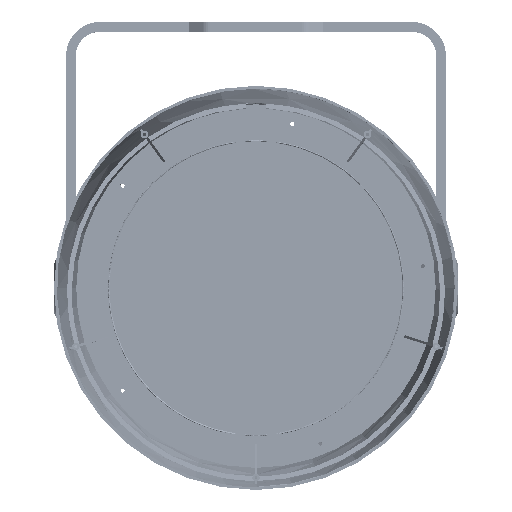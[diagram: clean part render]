
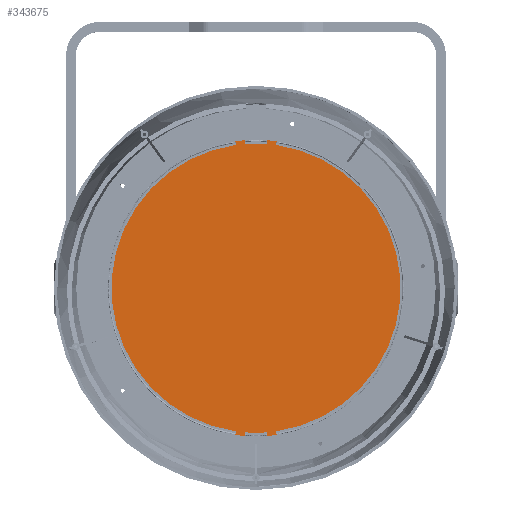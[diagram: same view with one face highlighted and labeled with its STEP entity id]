
A CAD part, top view. The second image highlights one B-rep face of the part: STEP entity #343675.
In plain terms, the highlighted planar face has unit normal (0, 0, 1).
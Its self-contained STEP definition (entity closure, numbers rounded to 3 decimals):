
#18775 = EDGE_CURVE ( 'NONE', #159300, #128633, #93476, .T. ) ;
#48183 = PLANE ( 'NONE',  #64972 ) ;
#48656 = CARTESIAN_POINT ( 'NONE',  ( 0., 0.002, 53.675 ) ) ;
#64972 = AXIS2_PLACEMENT_3D ( 'NONE', #353479, #170746, #384172 ) ;
#79322 = DIRECTION ( 'NONE',  ( 1., 0., 0. ) ) ;
#93476 = CIRCLE ( 'NONE', #272078, 130. ) ;
#109360 = AXIS2_PLACEMENT_3D ( 'NONE', #48656, #262296, #79322 ) ;
#128633 = VERTEX_POINT ( 'NONE', #205957 ) ;
#135475 = EDGE_LOOP ( 'NONE', ( #333021, #382047 ) ) ;
#159300 = VERTEX_POINT ( 'NONE', #383686 ) ;
#170746 = DIRECTION ( 'NONE',  ( 0., 0., 1. ) ) ;
#205957 = CARTESIAN_POINT ( 'NONE',  ( 130., 0.002, 53.675 ) ) ;
#262296 = DIRECTION ( 'NONE',  ( 0., 0., 1. ) ) ;
#272078 = AXIS2_PLACEMENT_3D ( 'NONE', #368326, #365683, #353565 ) ;
#304408 = EDGE_CURVE ( 'NONE', #128633, #159300, #355755, .T. ) ;
#333021 = ORIENTED_EDGE ( 'NONE', *, *, #304408, .T. ) ;
#343675 = ADVANCED_FACE ( 'NONE', ( #375538 ), #48183, .T. ) ;
#353479 = CARTESIAN_POINT ( 'NONE',  ( 0., 0.002, 53.675 ) ) ;
#353565 = DIRECTION ( 'NONE',  ( 1., 0., 0. ) ) ;
#355755 = CIRCLE ( 'NONE', #109360, 130. ) ;
#365683 = DIRECTION ( 'NONE',  ( 0., 0., 1. ) ) ;
#368326 = CARTESIAN_POINT ( 'NONE',  ( 0., 0.002, 53.675 ) ) ;
#375538 = FACE_OUTER_BOUND ( 'NONE', #135475, .T. ) ;
#382047 = ORIENTED_EDGE ( 'NONE', *, *, #18775, .T. ) ;
#383686 = CARTESIAN_POINT ( 'NONE',  ( -130., 0.002, 53.675 ) ) ;
#384172 = DIRECTION ( 'NONE',  ( 1., 0., 0. ) ) ;
